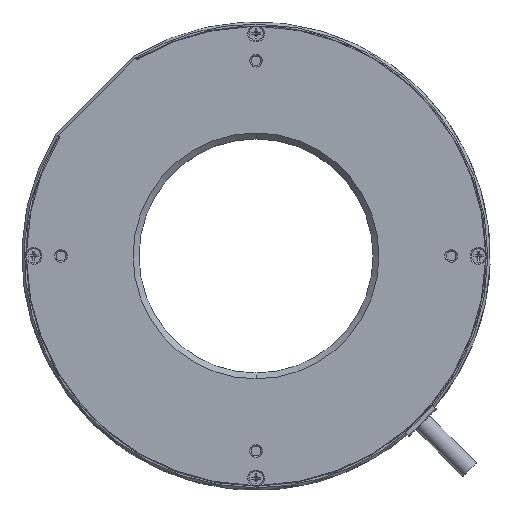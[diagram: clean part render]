
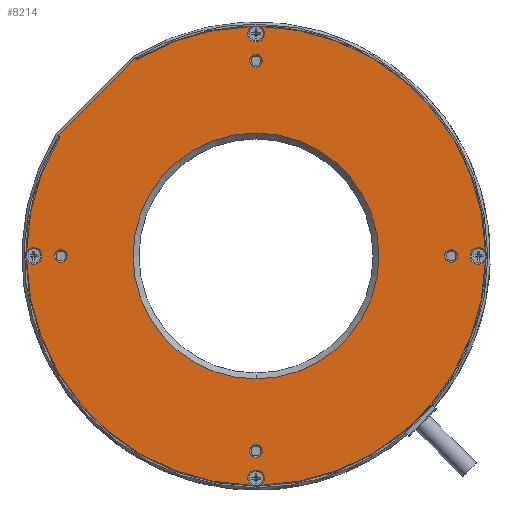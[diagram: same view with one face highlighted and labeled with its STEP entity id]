
A CAD part, top view. The second image highlights one B-rep face of the part: STEP entity #8214.
In plain terms, the highlighted planar face has unit normal (0, 0, 1).
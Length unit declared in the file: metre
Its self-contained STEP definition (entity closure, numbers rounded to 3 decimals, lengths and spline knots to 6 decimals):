
#1351=CARTESIAN_POINT('',(0.,0.,0.0065));
#1352=DIRECTION('',(0.,0.,-1.));
#1353=DIRECTION('',(0.,1.,0.));
#1354=AXIS2_PLACEMENT_3D('',#1351,#1352,#1353);
#1356=CARTESIAN_POINT('',(0.,0.,0.0065));
#1357=DIRECTION('',(0.,0.,-1.));
#1358=DIRECTION('',(0.,-1.,0.));
#1359=AXIS2_PLACEMENT_3D('',#1356,#1357,#1358);
#1361=CARTESIAN_POINT('',(0.,-0.05,0.0065));
#1362=DIRECTION('',(0.,0.,-1.));
#1363=DIRECTION('',(0.,-1.,0.));
#1364=AXIS2_PLACEMENT_3D('',#1361,#1362,#1363);
#1366=CARTESIAN_POINT('',(0.,-0.05,0.0065));
#1367=DIRECTION('',(0.,0.,-1.));
#1368=DIRECTION('',(0.,1.,0.));
#1369=AXIS2_PLACEMENT_3D('',#1366,#1367,#1368);
#1371=CARTESIAN_POINT('',(0.05,0.,0.0065));
#1372=DIRECTION('',(0.,0.,-1.));
#1373=DIRECTION('',(1.,0.,0.));
#1374=AXIS2_PLACEMENT_3D('',#1371,#1372,#1373);
#1376=CARTESIAN_POINT('',(0.05,0.,0.0065));
#1377=DIRECTION('',(0.,0.,-1.));
#1378=DIRECTION('',(-1.,0.,0.));
#1379=AXIS2_PLACEMENT_3D('',#1376,#1377,#1378);
#1381=CARTESIAN_POINT('',(0.,0.05,0.0065));
#1382=DIRECTION('',(0.,0.,-1.));
#1383=DIRECTION('',(0.,1.,0.));
#1384=AXIS2_PLACEMENT_3D('',#1381,#1382,#1383);
#1386=CARTESIAN_POINT('',(0.,0.05,0.0065));
#1387=DIRECTION('',(0.,0.,-1.));
#1388=DIRECTION('',(0.,-1.,0.));
#1389=AXIS2_PLACEMENT_3D('',#1386,#1387,#1388);
#1391=CARTESIAN_POINT('',(-0.05,0.,0.0065));
#1392=DIRECTION('',(0.,0.,-1.));
#1393=DIRECTION('',(-1.,0.,0.));
#1394=AXIS2_PLACEMENT_3D('',#1391,#1392,#1393);
#1396=CARTESIAN_POINT('',(-0.05,0.,0.0065));
#1397=DIRECTION('',(0.,0.,-1.));
#1398=DIRECTION('',(1.,0.,0.));
#1399=AXIS2_PLACEMENT_3D('',#1396,#1397,#1398);
#1401=CARTESIAN_POINT('',(0.,0.,0.0065));
#1402=DIRECTION('',(0.,0.,1.));
#1403=DIRECTION('',(-0.859,0.513,0.));
#1404=AXIS2_PLACEMENT_3D('',#1401,#1402,#1403);
#1406=CARTESIAN_POINT('',(-0.050912,0.030406,0.0065));
#1407=DIRECTION('',(0.,0.,-1.));
#1408=DIRECTION('',(0.707,0.707,0.));
#1409=AXIS2_PLACEMENT_3D('',#1406,#1407,#1408);
#1411=DIRECTION('',(0.707,-0.707,0.));
#1412=VECTOR('',#1411,0.000244);
#1413=CARTESIAN_POINT('',(-0.050731,0.030932,0.0065));
#1414=LINE('',#1413,#1412);
#1415=DIRECTION('',(-0.707,-0.707,0.));
#1416=VECTOR('',#1415,0.028);
#1417=CARTESIAN_POINT('',(-0.030932,0.050731,0.0065));
#1418=LINE('',#1417,#1416);
#1419=DIRECTION('',(-0.707,0.707,0.));
#1420=VECTOR('',#1419,0.000244);
#1421=CARTESIAN_POINT('',(-0.030759,0.050558,0.0065));
#1422=LINE('',#1421,#1420);
#1423=CARTESIAN_POINT('',(-0.030406,0.050912,0.0065));
#1424=DIRECTION('',(0.,0.,-1.));
#1425=DIRECTION('',(0.513,-0.859,0.));
#1426=AXIS2_PLACEMENT_3D('',#1423,#1424,#1425);
#1428=CARTESIAN_POINT('',(0.,0.,0.0065));
#1429=DIRECTION('',(0.,0.,1.));
#1430=DIRECTION('',(-0.02,1.,0.));
#1431=AXIS2_PLACEMENT_3D('',#1428,#1429,#1430);
#1433=CARTESIAN_POINT('',(0.,0.,0.0065));
#1434=DIRECTION('',(0.,0.,1.));
#1435=DIRECTION('',(1.,0.02,0.));
#1436=AXIS2_PLACEMENT_3D('',#1433,#1434,#1435);
#1438=CARTESIAN_POINT('',(0.,0.,0.0065));
#1439=DIRECTION('',(0.,0.,1.));
#1440=DIRECTION('',(0.02,-1.,0.));
#1441=AXIS2_PLACEMENT_3D('',#1438,#1439,#1440);
#1443=CARTESIAN_POINT('',(0.,0.,0.0065));
#1444=DIRECTION('',(0.,0.,1.));
#1445=DIRECTION('',(-1.,-0.02,0.));
#1446=AXIS2_PLACEMENT_3D('',#1443,#1444,#1445);
#2610=CARTESIAN_POINT('',(-0.057,0.,0.0065));
#2611=DIRECTION('',(0.,0.,-1.));
#2612=DIRECTION('',(-0.832,0.555,0.));
#2613=AXIS2_PLACEMENT_3D('',#2610,#2611,#2612);
#3020=CARTESIAN_POINT('',(0.,-0.057,0.0065));
#3021=DIRECTION('',(0.,0.,-1.));
#3022=DIRECTION('',(-0.555,-0.832,0.));
#3023=AXIS2_PLACEMENT_3D('',#3020,#3021,#3022);
#3445=CARTESIAN_POINT('',(0.057,0.,0.0065));
#3446=DIRECTION('',(0.,0.,-1.));
#3447=DIRECTION('',(0.832,-0.555,0.));
#3448=AXIS2_PLACEMENT_3D('',#3445,#3446,#3447);
#4378=CARTESIAN_POINT('',(0.,0.057,0.0065));
#4379=DIRECTION('',(0.,0.,-1.));
#4380=DIRECTION('',(0.555,0.832,0.));
#4381=AXIS2_PLACEMENT_3D('',#4378,#4379,#4380);
#4992=CARTESIAN_POINT('',(-0.050482,0.030149,0.0065));
#4993=CARTESIAN_POINT('',(-0.058788,0.001194,0.0065));
#4994=VERTEX_POINT('',#4992);
#4995=VERTEX_POINT('',#4993);
#4996=CARTESIAN_POINT('',(-0.050558,0.030759,0.0065));
#4997=VERTEX_POINT('',#4996);
#4998=CARTESIAN_POINT('',(-0.050731,0.030932,0.0065));
#4999=VERTEX_POINT('',#4998);
#5000=CARTESIAN_POINT('',(-0.030932,0.050731,0.0065));
#5001=VERTEX_POINT('',#5000);
#5002=CARTESIAN_POINT('',(-0.030759,0.050558,0.0065));
#5003=VERTEX_POINT('',#5002);
#5004=CARTESIAN_POINT('',(-0.030149,0.050482,0.0065));
#5005=VERTEX_POINT('',#5004);
#5006=CARTESIAN_POINT('',(-0.001194,0.058788,0.0065));
#5007=VERTEX_POINT('',#5006);
#5008=CARTESIAN_POINT('',(0.058788,0.001194,0.0065));
#5009=CARTESIAN_POINT('',(0.001194,0.058788,0.0065));
#5010=VERTEX_POINT('',#5008);
#5011=VERTEX_POINT('',#5009);
#5012=CARTESIAN_POINT('',(0.001194,-0.058788,0.0065));
#5013=CARTESIAN_POINT('',(0.058788,-0.001194,0.0065));
#5014=VERTEX_POINT('',#5012);
#5015=VERTEX_POINT('',#5013);
#5016=CARTESIAN_POINT('',(-0.058788,-0.001194,0.0065));
#5017=CARTESIAN_POINT('',(-0.001194,-0.058788,0.0065));
#5018=VERTEX_POINT('',#5016);
#5019=VERTEX_POINT('',#5017);
#5020=CARTESIAN_POINT('',(-0.0484,0.,0.0065));
#5021=CARTESIAN_POINT('',(-0.0516,0.,0.0065));
#5022=VERTEX_POINT('',#5020);
#5023=VERTEX_POINT('',#5021);
#5024=CARTESIAN_POINT('',(0.,0.0484,0.0065));
#5025=CARTESIAN_POINT('',(0.,0.0516,0.0065));
#5026=VERTEX_POINT('',#5024);
#5027=VERTEX_POINT('',#5025);
#5028=CARTESIAN_POINT('',(0.0484,0.,0.0065));
#5029=CARTESIAN_POINT('',(0.0516,0.,0.0065));
#5030=VERTEX_POINT('',#5028);
#5031=VERTEX_POINT('',#5029);
#5032=CARTESIAN_POINT('',(0.,-0.0484,0.0065));
#5033=CARTESIAN_POINT('',(0.,-0.0516,0.0065));
#5034=VERTEX_POINT('',#5032);
#5035=VERTEX_POINT('',#5033);
#5036=CARTESIAN_POINT('',(0.,-0.0315,0.0065));
#5037=CARTESIAN_POINT('',(0.,0.0315,0.0065));
#5038=VERTEX_POINT('',#5036);
#5039=VERTEX_POINT('',#5037);
#8151=CARTESIAN_POINT('',(0.,0.,0.0065));
#8152=DIRECTION('',(0.,0.,-1.));
#8153=DIRECTION('',(0.,-1.,0.));
#8154=AXIS2_PLACEMENT_3D('',#8151,#8152,#8153);
#8155=PLANE('',#8154);
#8157=ORIENTED_EDGE('',*,*,#8156,.F.);
#8159=ORIENTED_EDGE('',*,*,#8158,.F.);
#8161=ORIENTED_EDGE('',*,*,#8160,.F.);
#8163=ORIENTED_EDGE('',*,*,#8162,.F.);
#8165=ORIENTED_EDGE('',*,*,#8164,.F.);
#8167=ORIENTED_EDGE('',*,*,#8166,.F.);
#8169=ORIENTED_EDGE('',*,*,#8168,.F.);
#8171=ORIENTED_EDGE('',*,*,#8170,.F.);
#8173=ORIENTED_EDGE('',*,*,#8172,.F.);
#8175=ORIENTED_EDGE('',*,*,#8174,.F.);
#8177=ORIENTED_EDGE('',*,*,#8176,.F.);
#8179=ORIENTED_EDGE('',*,*,#8178,.F.);
#8181=ORIENTED_EDGE('',*,*,#8180,.F.);
#8183=ORIENTED_EDGE('',*,*,#8182,.F.);
#8184=EDGE_LOOP('',(#8157,#8159,#8161,#8163,#8165,#8167,#8169,#8171,#8173,#8175,
#8177,#8179,#8181,#8183));
#8185=FACE_OUTER_BOUND('',#8184,.F.);
#8187=ORIENTED_EDGE('',*,*,#8186,.F.);
#8189=ORIENTED_EDGE('',*,*,#8188,.F.);
#8190=EDGE_LOOP('',(#8187,#8189));
#8191=FACE_BOUND('',#8190,.F.);
#8193=ORIENTED_EDGE('',*,*,#8192,.F.);
#8195=ORIENTED_EDGE('',*,*,#8194,.F.);
#8196=EDGE_LOOP('',(#8193,#8195));
#8197=FACE_BOUND('',#8196,.F.);
#8199=ORIENTED_EDGE('',*,*,#8198,.F.);
#8201=ORIENTED_EDGE('',*,*,#8200,.F.);
#8202=EDGE_LOOP('',(#8199,#8201));
#8203=FACE_BOUND('',#8202,.F.);
#8205=ORIENTED_EDGE('',*,*,#8204,.F.);
#8207=ORIENTED_EDGE('',*,*,#8206,.F.);
#8208=EDGE_LOOP('',(#8205,#8207));
#8209=FACE_BOUND('',#8208,.F.);
#8210=ORIENTED_EDGE('',*,*,#8144,.F.);
#8211=ORIENTED_EDGE('',*,*,#8130,.F.);
#8212=EDGE_LOOP('',(#8210,#8211));
#8213=FACE_BOUND('',#8212,.F.);
#8214=ADVANCED_FACE('',(#8185,#8191,#8197,#8203,#8209,#8213),#8155,.F.);
#1355=CIRCLE('',#1354,0.0315);
#1360=CIRCLE('',#1359,0.0315);
#1365=CIRCLE('',#1364,0.0016);
#1370=CIRCLE('',#1369,0.0016);
#1375=CIRCLE('',#1374,0.0016);
#1380=CIRCLE('',#1379,0.0016);
#1385=CIRCLE('',#1384,0.0016);
#1390=CIRCLE('',#1389,0.0016);
#1395=CIRCLE('',#1394,0.0016);
#1400=CIRCLE('',#1399,0.0016);
#1405=CIRCLE('',#1404,0.0588);
#1410=CIRCLE('',#1409,0.0005);
#1427=CIRCLE('',#1426,0.0005);
#1432=CIRCLE('',#1431,0.0588);
#1437=CIRCLE('',#1436,0.0588);
#1442=CIRCLE('',#1441,0.0588);
#1447=CIRCLE('',#1446,0.0588);
#2614=CIRCLE('',#2613,0.00215);
#3024=CIRCLE('',#3023,0.00215);
#3449=CIRCLE('',#3448,0.00215);
#4382=CIRCLE('',#4381,0.00215);
#8130=EDGE_CURVE('',#5038,#5039,#1360,.T.);
#8144=EDGE_CURVE('',#5039,#5038,#1355,.T.);
#8156=EDGE_CURVE('',#4995,#5018,#2614,.T.);
#8158=EDGE_CURVE('',#4994,#4995,#1405,.T.);
#8160=EDGE_CURVE('',#4997,#4994,#1410,.T.);
#8162=EDGE_CURVE('',#4999,#4997,#1414,.T.);
#8164=EDGE_CURVE('',#5001,#4999,#1418,.T.);
#8166=EDGE_CURVE('',#5003,#5001,#1422,.T.);
#8168=EDGE_CURVE('',#5005,#5003,#1427,.T.);
#8170=EDGE_CURVE('',#5007,#5005,#1432,.T.);
#8172=EDGE_CURVE('',#5011,#5007,#4382,.T.);
#8174=EDGE_CURVE('',#5010,#5011,#1437,.T.);
#8176=EDGE_CURVE('',#5015,#5010,#3449,.T.);
#8178=EDGE_CURVE('',#5014,#5015,#1442,.T.);
#8180=EDGE_CURVE('',#5019,#5014,#3024,.T.);
#8182=EDGE_CURVE('',#5018,#5019,#1447,.T.);
#8186=EDGE_CURVE('',#5035,#5034,#1365,.T.);
#8188=EDGE_CURVE('',#5034,#5035,#1370,.T.);
#8192=EDGE_CURVE('',#5031,#5030,#1375,.T.);
#8194=EDGE_CURVE('',#5030,#5031,#1380,.T.);
#8198=EDGE_CURVE('',#5027,#5026,#1385,.T.);
#8200=EDGE_CURVE('',#5026,#5027,#1390,.T.);
#8204=EDGE_CURVE('',#5023,#5022,#1395,.T.);
#8206=EDGE_CURVE('',#5022,#5023,#1400,.T.);
